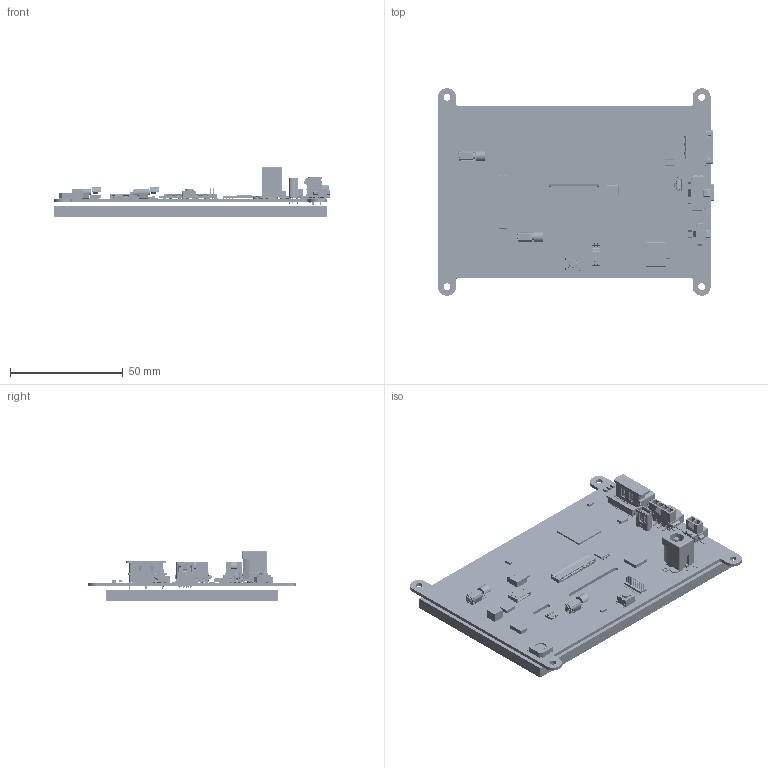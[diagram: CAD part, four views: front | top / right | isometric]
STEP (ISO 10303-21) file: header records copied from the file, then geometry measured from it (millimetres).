
FILE_DESCRIPTION (( 'STEP AP214' ), '1' );
FILE_NAME ('HTT50A Vert. Mount TPC R3.0.2.STEP', '2021-08-24T16:12:07', ( '' ), ( '' ), 'SwSTEP 2.0', 'SolidWorks 2018', '' );
FILE_SCHEMA (( 'AUTOMOTIVE_DESIGN' ));
Length unit declared in the file: millimetre
Products named in the file (4): HTT50x VERT; MOPTFT800480-50 TPC; HTT50A Vert. Mount TPC R3.0.2; HTT50x R3.0.2 Parts_only
Assembly tree (3 placements, depth 2):
  HTT50A Vert. Mount TPC R3.0.2
    HTT50x VERT
    HTT50x R3.0.2 Parts_only
    MOPTFT800480-50 TPC
Bounding box: 122.2 x 91.8 x 22.21 mm (x, y, z)
Volume: 60584.3 mm3; surface area: 72152.3 mm2
Topology: 2 solids, 167 shells, 13169 faces, 36785 edges, 23769 vertices
Faces by surface type: plane 9369, cylinder 2464, bspline 1258, cone 38, sphere 30, torus 10
Entity records: 571150 total; most frequent: CARTESIAN_POINT 94579, ORIENTED_EDGE 73444, DIRECTION 61752, EDGE_CURVE 36761, LINE 28124, VECTOR 28124, VERTEX_POINT 23761, AXIS2_PLACEMENT_3D 16814
